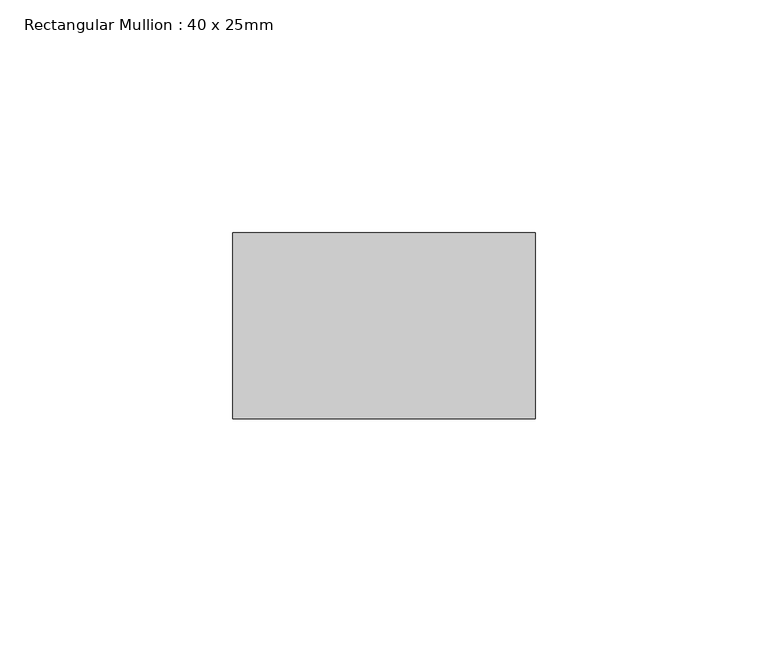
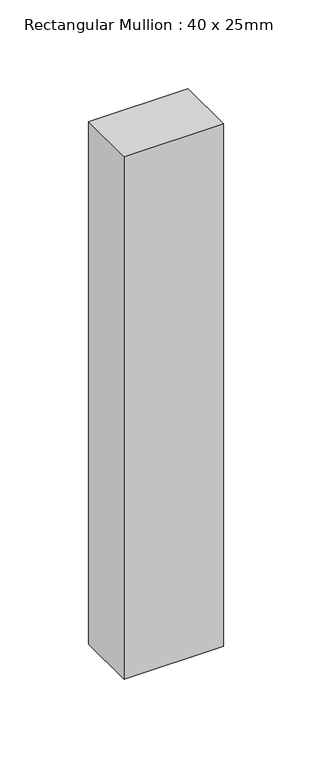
"""IFC4 building model written with IfcOpenShell, lengths in millimetres: member geometry, Rectangular Mullion : 40 x 25mm."""

from ifc_helpers import new_model, si_unit, frame, origin, place, context, project, spatial, polyline, outline, extrude, source, transform, mapped, element, save


def rectangular_mullion_40_x_25mm_85aee393(model_context):
    return source(origin(), model_context, "Body", "SweptSolid", [
        extrude(outline(polyline([(0.0, -20.0), (0.0, -60.0), (-65.0, -60.0), (-65.0, -20.0), (0.0, -20.0)])), frame((0.0, 0.0, -360.0), z_axis=(0.0, 0.0, 1.0), x_axis=(1.0, 0.0, 0.0)), (0.0, 0.0, 1.0), 360.0),
    ])


if __name__ == "__main__":
    model = new_model("IFC4")
    model_context = context("Model", 3, world=origin())
    ifc_project = project(units=[si_unit("LENGTHUNIT", "METRE", prefix="MILLI")], contexts=[model_context])
    site = spatial("IfcSite", under=ifc_project)
    building = spatial("IfcBuilding", under=site)
    placement = place(None, origin())
    rectangular_mullion_40_x_25mm_shape = rectangular_mullion_40_x_25mm_85aee393(model_context)
    element("IfcMember", 1, ObjectType="Rectangular Mullion : 40 x 25mm", at=placement, inside=building, context=model_context, shape_type="MappedRepresentation", body=[
        mapped(rectangular_mullion_40_x_25mm_shape, transform((0.0, 0.0, 0.0), x_axis=(1.0, 0.0, 0.0), y_axis=(0.0, 1.0, 0.0), z_axis=(0.0, 0.0, 1.0))),
    ])
    save(model, "model.ifc")
